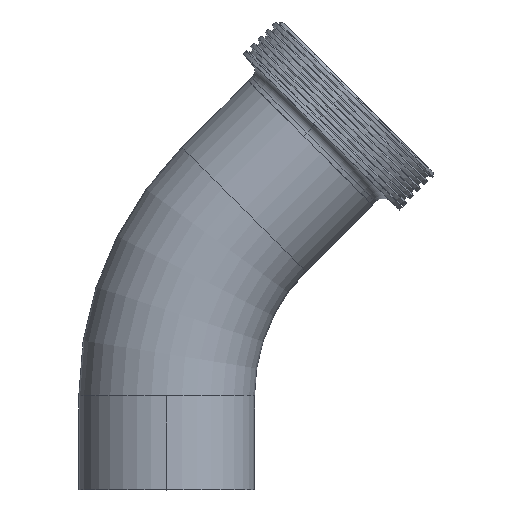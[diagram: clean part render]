
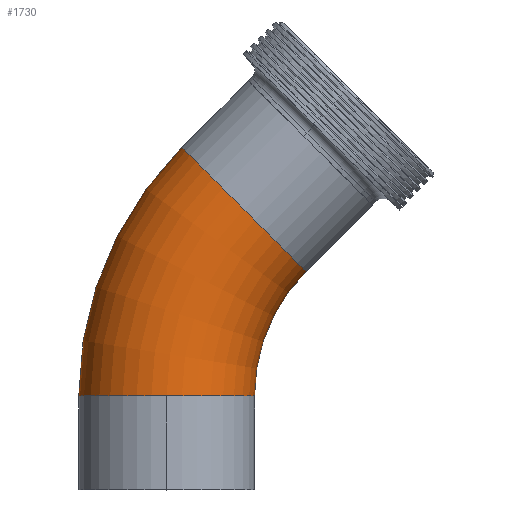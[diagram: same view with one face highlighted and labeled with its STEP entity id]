
A CAD part, top view. The second image highlights one B-rep face of the part: STEP entity #1730.
In plain terms, the highlighted toroidal (fillet/blend) face has major radius 76.2 mm and minor radius 25.4 mm.
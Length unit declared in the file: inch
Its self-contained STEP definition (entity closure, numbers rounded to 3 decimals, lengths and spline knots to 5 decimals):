
#2 = CARTESIAN_POINT ( 'NONE',  ( 4.4517, 2.27669, 4.55283 ) ) ;
#97 = DIRECTION ( 'NONE',  ( -1., 0., 0. ) ) ;
#309 = CARTESIAN_POINT ( 'NONE',  ( 1.62327, 5.10512, 4.55283 ) ) ;
#315 = CARTESIAN_POINT ( 'NONE',  ( 0.4517, 2.27669, 4.55283 ) ) ;
#448 = CARTESIAN_POINT ( 'NONE',  ( 4.4517, 2.27669, 4.55283 ) ) ;
#505 = CIRCLE ( 'NONE', #678, 1. ) ;
#555 = FACE_OUTER_BOUND ( 'NONE', #3283, .T. ) ;
#620 = ORIENTED_EDGE ( 'NONE', *, *, #940, .T. ) ;
#678 = AXIS2_PLACEMENT_3D ( 'NONE', #1802, #4094, #2130 ) ;
#876 = VERTEX_POINT ( 'NONE', #309 ) ;
#916 = EDGE_CURVE ( 'NONE', #3336, #3778, #3339, .T. ) ;
#940 = EDGE_CURVE ( 'NONE', #1664, #3778, #2480, .T. ) ;
#1021 = EDGE_CURVE ( 'NONE', #1888, #1664, #2355, .T. ) ;
#1053 = EDGE_CURVE ( 'NONE', #876, #1888, #1498, .T. ) ;
#1121 = EDGE_CURVE ( 'NONE', #876, #3336, #505, .T. ) ;
#1293 = ORIENTED_EDGE ( 'NONE', *, *, #916, .F. ) ;
#1427 = CARTESIAN_POINT ( 'NONE',  ( 4.4517, 2.27669, 4.55283 ) ) ;
#1435 = DIRECTION ( 'NONE',  ( -1., 0., 0. ) ) ;
#1441 = CARTESIAN_POINT ( 'NONE',  ( 1.4517, 2.27669, 4.55283 ) ) ;
#1445 = ORIENTED_EDGE ( 'NONE', *, *, #1121, .F. ) ;
#1498 = CIRCLE ( 'NONE', #2307, 4. ) ;
#1655 = AXIS2_PLACEMENT_3D ( 'NONE', #4037, #4054, #1435 ) ;
#1664 = VERTEX_POINT ( 'NONE', #2467 ) ;
#1730 = ADVANCED_FACE ( 'NONE', ( #555 ), #2211, .T. ) ;
#1784 = DIRECTION ( 'NONE',  ( 1., 0., 0. ) ) ;
#1802 = CARTESIAN_POINT ( 'NONE',  ( 2.33038, 4.39801, 4.55283 ) ) ;
#1866 = CARTESIAN_POINT ( 'NONE',  ( 2.4517, 2.27669, 4.55283 ) ) ;
#1888 = VERTEX_POINT ( 'NONE', #315 ) ;
#2130 = DIRECTION ( 'NONE',  ( -0.707, 0.707, 0. ) ) ;
#2211 = TOROIDAL_SURFACE ( 'NONE', #3400, 3., 1. ) ;
#2307 = AXIS2_PLACEMENT_3D ( 'NONE', #448, #4077, #2708 ) ;
#2355 = CIRCLE ( 'NONE', #3783, 1. ) ;
#2417 = DIRECTION ( 'NONE',  ( 1., 0., 0. ) ) ;
#2467 = CARTESIAN_POINT ( 'NONE',  ( 1.4517, 2.27669, 5.55283 ) ) ;
#2480 = CIRCLE ( 'NONE', #1655, 1. ) ;
#2708 = DIRECTION ( 'NONE',  ( 1., 0., 0. ) ) ;
#2735 = DIRECTION ( 'NONE',  ( 0., 0., 1. ) ) ;
#3062 = DIRECTION ( 'NONE',  ( 0., 1., 0. ) ) ;
#3093 = CARTESIAN_POINT ( 'NONE',  ( 3.03748, 3.69091, 4.55283 ) ) ;
#3283 = EDGE_LOOP ( 'NONE', ( #1445, #3494, #3940, #620, #1293 ) ) ;
#3336 = VERTEX_POINT ( 'NONE', #3093 ) ;
#3339 = CIRCLE ( 'NONE', #3983, 2. ) ;
#3400 = AXIS2_PLACEMENT_3D ( 'NONE', #1427, #2735, #2417 ) ;
#3494 = ORIENTED_EDGE ( 'NONE', *, *, #1053, .T. ) ;
#3778 = VERTEX_POINT ( 'NONE', #1866 ) ;
#3783 = AXIS2_PLACEMENT_3D ( 'NONE', #1441, #3062, #97 ) ;
#3940 = ORIENTED_EDGE ( 'NONE', *, *, #1021, .T. ) ;
#3983 = AXIS2_PLACEMENT_3D ( 'NONE', #2, #4071, #1784 ) ;
#4037 = CARTESIAN_POINT ( 'NONE',  ( 1.4517, 2.27669, 4.55283 ) ) ;
#4054 = DIRECTION ( 'NONE',  ( 0., 1., 0. ) ) ;
#4071 = DIRECTION ( 'NONE',  ( 0., 0., 1. ) ) ;
#4077 = DIRECTION ( 'NONE',  ( 0., 0., 1. ) ) ;
#4094 = DIRECTION ( 'NONE',  ( 0.707, 0.707, 0. ) ) ;
